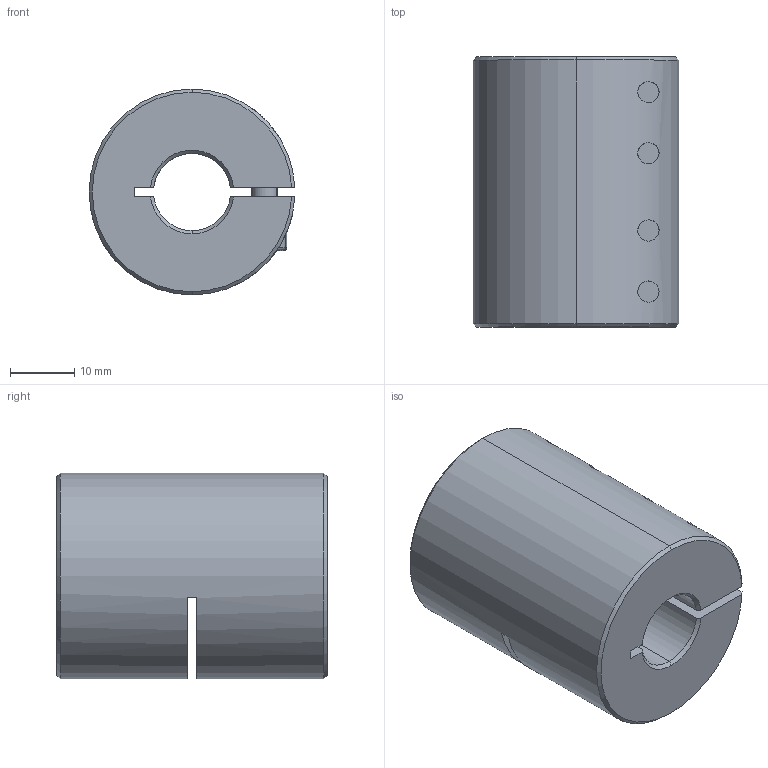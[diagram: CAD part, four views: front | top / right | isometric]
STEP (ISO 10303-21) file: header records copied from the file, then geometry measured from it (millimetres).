
FILE_DESCRIPTION (( 'STEP AP203' ), '1' );
FILE_NAME ('LL-B-D32L42-12-12.STEP', '2021-11-05T07:50:47', ( '' ), ( '' ), 'SwSTEP 2.0', 'SolidWorks 2018', '' );
FILE_SCHEMA (( 'CONFIG_CONTROL_DESIGN' ));
Length unit declared in the file: millimetre
Products named in the file (1): LL-B-D32L42-12-12
Bounding box: 31.98 x 42 x 32 mm (x, y, z)
Volume: 26846.1 mm3; surface area: 10294.2 mm2
Topology: 1 solids, 1 shells, 188 faces, 477 edges, 299 vertices
Faces by surface type: plane 86, cylinder 74, cone 20, torus 8
Entity records: 6205 total; most frequent: CARTESIAN_POINT 1529, DIRECTION 1006, ORIENTED_EDGE 938, EDGE_CURVE 469, AXIS2_PLACEMENT_3D 392, VERTEX_POINT 299, LINE 222, VECTOR 222
